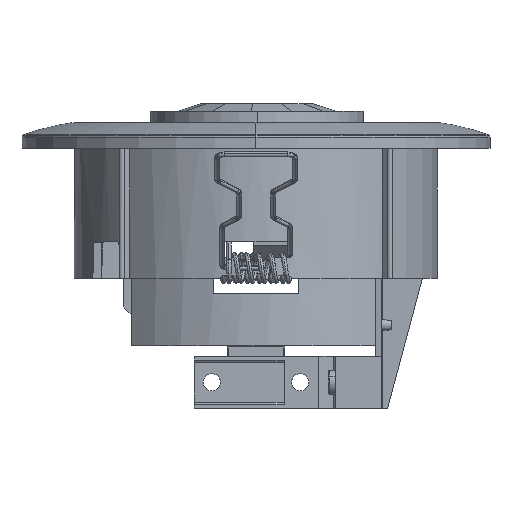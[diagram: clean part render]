
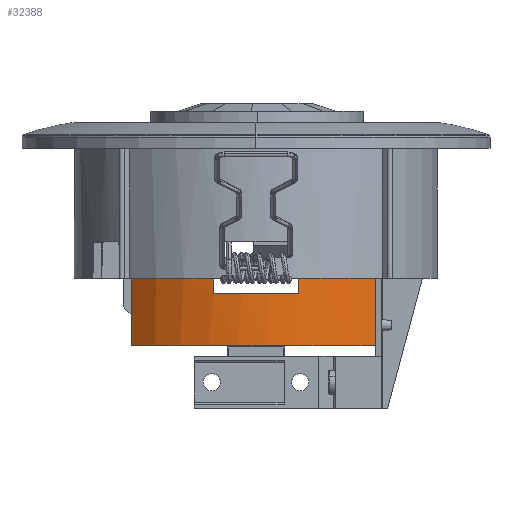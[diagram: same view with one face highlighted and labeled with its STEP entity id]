
A CAD part, left-side view. The second image highlights one B-rep face of the part: STEP entity #32388.
In plain terms, the highlighted cylindrical face has radius 35 mm (diameter 70 mm), a partial arc.
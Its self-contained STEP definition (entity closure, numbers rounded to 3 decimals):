
#1586=CARTESIAN_POINT('',(0.,0.,-38.));
#1587=DIRECTION('',(0.,0.,-1.));
#1588=DIRECTION('',(-0.754,-0.657,0.));
#1589=AXIS2_PLACEMENT_3D('',#1586,#1587,#1588);
#9030=DIRECTION('',(0.,0.,1.));
#9031=VECTOR('',#9030,3.);
#9032=CARTESIAN_POINT('',(-34.038,8.15,-28.));
#9033=LINE('',#9032,#9031);
#9037=DIRECTION('',(0.,0.,-1.));
#9038=VECTOR('',#9037,3.);
#9039=CARTESIAN_POINT('',(-34.038,-8.15,-25.));
#9040=LINE('',#9039,#9038);
#9044=CARTESIAN_POINT('',(0.,0.,-25.));
#9045=DIRECTION('',(0.,0.,-1.));
#9046=DIRECTION('',(-0.754,-0.657,0.));
#9047=AXIS2_PLACEMENT_3D('',#9044,#9045,#9046);
#9052=DIRECTION('',(0.,0.,1.));
#9053=VECTOR('',#9052,13.);
#9054=CARTESIAN_POINT('',(-26.382,-23.,-38.));
#9055=LINE('',#9054,#9053);
#9059=DIRECTION('',(0.,0.,-1.));
#9060=VECTOR('',#9059,13.);
#9061=CARTESIAN_POINT('',(-25.475,24.,-25.));
#9062=LINE('',#9061,#9060);
#9066=CARTESIAN_POINT('',(0.,0.,-25.));
#9067=DIRECTION('',(0.,0.,-1.));
#9068=DIRECTION('',(-0.973,0.233,0.));
#9069=AXIS2_PLACEMENT_3D('',#9066,#9067,#9068);
#9089=CARTESIAN_POINT('',(0.,0.,-28.));
#9090=DIRECTION('',(0.,0.,1.));
#9091=DIRECTION('',(-0.973,0.233,0.));
#9092=AXIS2_PLACEMENT_3D('',#9089,#9090,#9091);
#21330=CARTESIAN_POINT('',(-34.038,-8.15,-25.));
#21331=VERTEX_POINT('',#21330);
#21332=CARTESIAN_POINT('',(-26.382,-23.,-25.));
#21333=VERTEX_POINT('',#21332);
#21338=CARTESIAN_POINT('',(-25.475,24.,-25.));
#21339=VERTEX_POINT('',#21338);
#21340=CARTESIAN_POINT('',(-34.038,8.15,-25.));
#21341=VERTEX_POINT('',#21340);
#21718=CARTESIAN_POINT('',(-34.038,8.15,-28.));
#21719=VERTEX_POINT('',#21718);
#21720=CARTESIAN_POINT('',(-25.475,24.,-38.));
#21721=VERTEX_POINT('',#21720);
#21722=CARTESIAN_POINT('',(-26.382,-23.,-38.));
#21723=VERTEX_POINT('',#21722);
#21724=CARTESIAN_POINT('',(-34.038,-8.15,-28.));
#21725=VERTEX_POINT('',#21724);
#32369=CARTESIAN_POINT('',(0.,0.,-25.));
#32370=DIRECTION('',(0.,0.,-1.));
#32371=DIRECTION('',(-0.754,-0.657,0.));
#32372=AXIS2_PLACEMENT_3D('',#32369,#32370,#32371);
#32373=CYLINDRICAL_SURFACE('',#32372,35.);
#32374=ORIENTED_EDGE('',*,*,#32350,.F.);
#32376=ORIENTED_EDGE('',*,*,#32375,.T.);
#32378=ORIENTED_EDGE('',*,*,#32377,.F.);
#32379=ORIENTED_EDGE('',*,*,#32142,.F.);
#32381=ORIENTED_EDGE('',*,*,#32380,.F.);
#32382=ORIENTED_EDGE('',*,*,#24241,.T.);
#32384=ORIENTED_EDGE('',*,*,#32383,.F.);
#32385=ORIENTED_EDGE('',*,*,#32128,.F.);
#32386=EDGE_LOOP('',(#32374,#32376,#32378,#32379,#32381,#32382,#32384,#32385));
#32387=FACE_OUTER_BOUND('',#32386,.F.);
#1590=CIRCLE('',#1589,35.);
#9048=CIRCLE('',#9047,35.);
#9070=CIRCLE('',#9069,35.);
#9093=CIRCLE('',#9092,35.);
#24241=EDGE_CURVE('',#21723,#21721,#1590,.T.);
#32128=EDGE_CURVE('',#21341,#21339,#9070,.T.);
#32142=EDGE_CURVE('',#21333,#21331,#9048,.T.);
#32350=EDGE_CURVE('',#21719,#21341,#9033,.T.);
#32375=EDGE_CURVE('',#21719,#21725,#9093,.T.);
#32377=EDGE_CURVE('',#21331,#21725,#9040,.T.);
#32380=EDGE_CURVE('',#21723,#21333,#9055,.T.);
#32383=EDGE_CURVE('',#21339,#21721,#9062,.T.);
#32388=ADVANCED_FACE('',(#32387),#32373,.T.);
